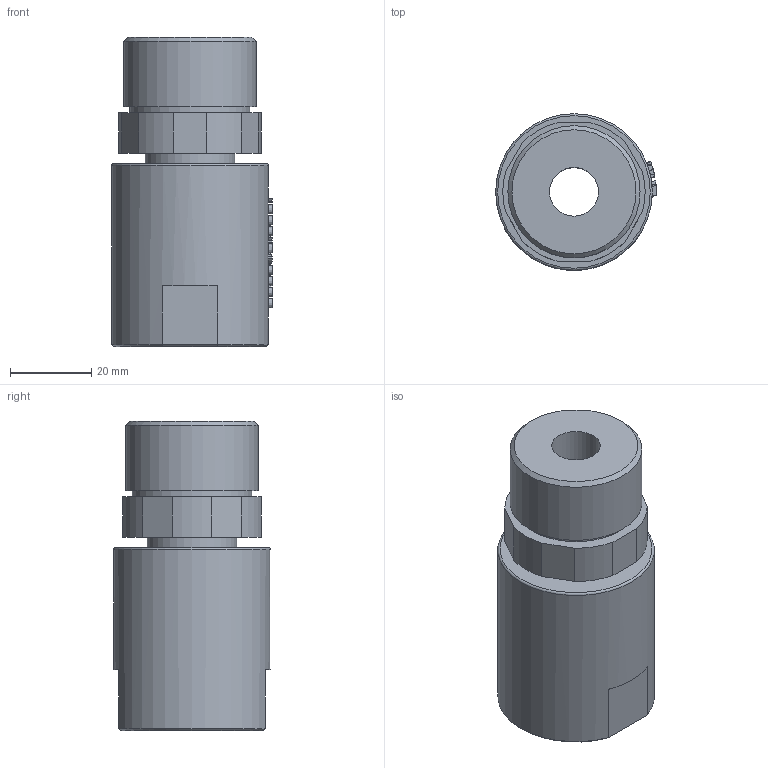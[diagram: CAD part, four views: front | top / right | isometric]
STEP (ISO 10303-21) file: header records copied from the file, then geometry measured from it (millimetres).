
FILE_DESCRIPTION(/* description */ (''),/* implementation_level */ '2;1');
FILE_NAME(/* name */ 'HY0108.stp',/* time_stamp */ '2024-07-03T14:54:03+08:00',/* author */ (''),/* organization */ (''),/* preprocessor_version */ 'ST-DEVELOPER v16.7',/* originating_system */ 'SIEMENS PLM Software NX 12.0',/* authorisation */ '');
FILE_SCHEMA (('AUTOMOTIVE_DESIGN { 1 0 10303 214 3 1 1 1 }'));
Length unit declared in the file: millimetre
Products named in the file (1): 8613389012830vcm
Bounding box: 39.5 x 38.5 x 76 mm (x, y, z)
Volume: 57515.9 mm3; surface area: 16201 mm2
Topology: 1 solids, 1 shells, 345 faces, 894 edges, 594 vertices
Faces by surface type: extrusion 154, plane 136, bspline 27, cylinder 23, cone 4, torus 1
Full cylindrical faces by diameter (mm): 12 x1, 22 x1, 29.5 x1, 30.5 x1, 32.5 x1, 38.5 x1
Entity records: 16019 total; most frequent: CARTESIAN_POINT 8343, ORIENTED_EDGE 1748, DIRECTION 1078, EDGE_CURVE 874, VERTEX_POINT 592, VECTOR 550, B_SPLINE_CURVE_WITH_KNOTS 533, EDGE_LOOP 408
